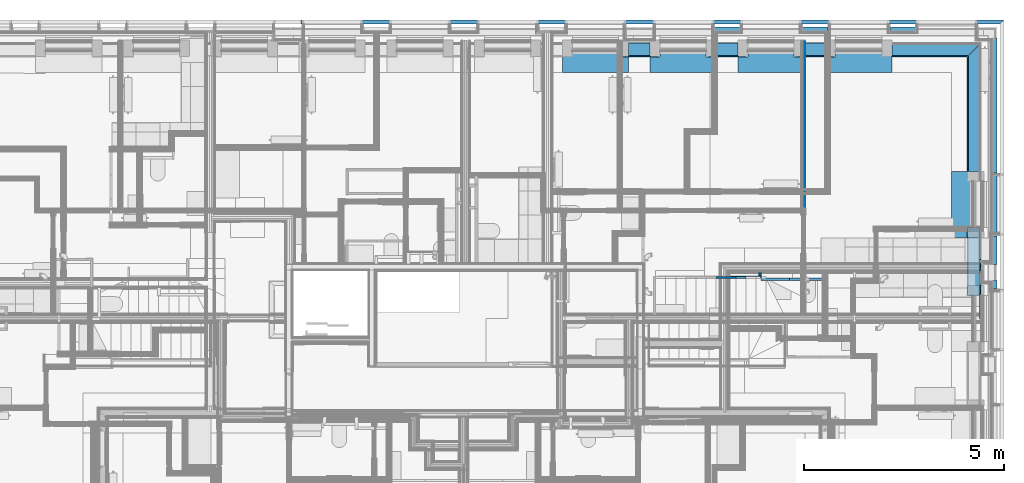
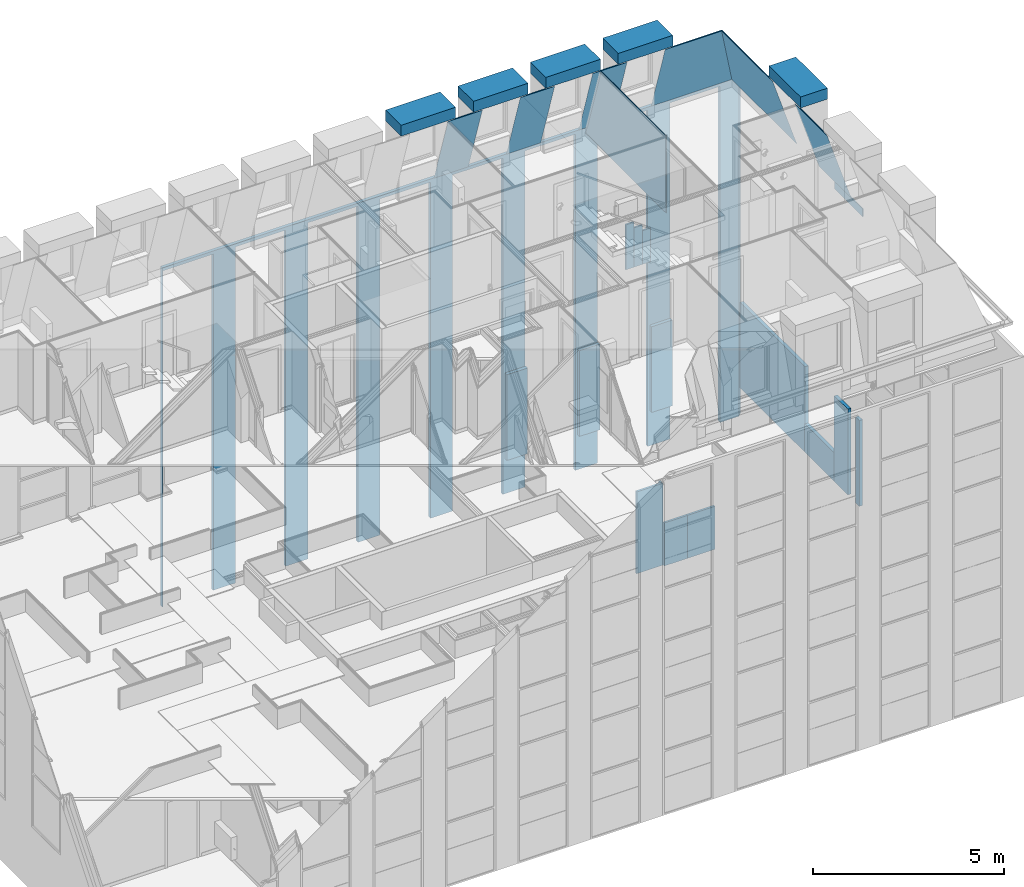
# One storey, part 8 of 169: 34 walls, 8 openings.
"""IFC2X3 building model written with IfcOpenShell, lengths in metres."""

from ifc_helpers import new_model, entity, si_unit, converted_unit, derived_unit, money_unit, direction, frame, frame_2d, origin_with_axes, place, context, subcontext, project, spatial, polyline, rectangle, outline, extrude, clip, halfspace, material, layer, layer_set, layer_usage, type_object, element, save


model = new_model("IFC2X3")

# Units and contexts
model_context = context("Model", 3, precision=1e-05, world=origin_with_axes(), true_north=direction((0.0, 1.0)))
body_context = subcontext(model_context, "Body", "Model", "MODEL_VIEW", scale=1.0)
ifc_project = project(units=[si_unit("LENGTHUNIT", "METRE"), si_unit("AREAUNIT", "SQUARE_METRE"), si_unit("VOLUMEUNIT", "CUBIC_METRE"), si_unit("ABSORBEDDOSEUNIT", "GRAY"), si_unit("AMOUNTOFSUBSTANCEUNIT", "MOLE"), si_unit("DOSEEQUIVALENTUNIT", "SIEVERT"), si_unit("ELECTRICCAPACITANCEUNIT", "FARAD"), si_unit("ELECTRICCHARGEUNIT", "COULOMB"), si_unit("ELECTRICCONDUCTANCEUNIT", "SIEMENS"), si_unit("ELECTRICCURRENTUNIT", "AMPERE"), si_unit("ELECTRICRESISTANCEUNIT", "OHM"), si_unit("ELECTRICVOLTAGEUNIT", "VOLT"), si_unit("ENERGYUNIT", "JOULE"), si_unit("FORCEUNIT", "NEWTON"), si_unit("FREQUENCYUNIT", "HERTZ"), si_unit("ILLUMINANCEUNIT", "LUX"), si_unit("INDUCTANCEUNIT", "HENRY"), si_unit("LUMINOUSFLUXUNIT", "LUMEN"), si_unit("LUMINOUSINTENSITYUNIT", "CANDELA"), si_unit("MAGNETICFLUXDENSITYUNIT", "TESLA"), si_unit("MAGNETICFLUXUNIT", "WEBER"), si_unit("MASSUNIT", "GRAM"), converted_unit("PLANEANGLEUNIT", "degree", entity("IfcReal", 0.0174532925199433), si_unit("PLANEANGLEUNIT", "RADIAN"), dimensions=[0, 0, 0, 0, 0, 0, 0]), si_unit("POWERUNIT", "WATT"), si_unit("PRESSUREUNIT", "PASCAL"), si_unit("RADIOACTIVITYUNIT", "BECQUEREL"), si_unit("SOLIDANGLEUNIT", "STERADIAN"), si_unit("THERMODYNAMICTEMPERATUREUNIT", "KELVIN"), si_unit("TIMEUNIT", "SECOND"), derived_unit("ACCELERATIONUNIT", [(si_unit("LENGTHUNIT", "METRE"), 1), (si_unit("TIMEUNIT", "SECOND"), -2)]), derived_unit("ANGULARVELOCITYUNIT", [(converted_unit("PLANEANGLEUNIT", "degree", entity("IfcReal", 0.0174532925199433), si_unit("PLANEANGLEUNIT", "RADIAN"), dimensions=[0, 0, 0, 0, 0, 0, 0]), 1), (si_unit("TIMEUNIT", "SECOND"), -1)]), derived_unit("CURVATUREUNIT", [(converted_unit("PLANEANGLEUNIT", "degree", entity("IfcReal", 0.0174532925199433), si_unit("PLANEANGLEUNIT", "RADIAN"), dimensions=[0, 0, 0, 0, 0, 0, 0]), 1), (si_unit("LENGTHUNIT", "METRE"), -1)]), derived_unit("DYNAMICVISCOSITYUNIT", [(si_unit("PRESSUREUNIT", "PASCAL"), 1), (si_unit("TIMEUNIT", "SECOND"), 1)]), derived_unit("HEATFLUXDENSITYUNIT", [(si_unit("POWERUNIT", "WATT"), 1), (si_unit("LENGTHUNIT", "METRE"), -2)]), derived_unit("HEATINGVALUEUNIT", [(si_unit("ENERGYUNIT", "JOULE"), 1), (si_unit("MASSUNIT", "GRAM"), -1)]), derived_unit("INTEGERCOUNTRATEUNIT", [(si_unit("TIMEUNIT", "SECOND"), -1)]), derived_unit("IONCONCENTRATIONUNIT", [(si_unit("MASSUNIT", "GRAM"), 1), (si_unit("VOLUMEUNIT", "CUBIC_METRE"), -1)]), derived_unit("ISOTHERMALMOISTURECAPACITYUNIT", [(si_unit("VOLUMEUNIT", "CUBIC_METRE"), 1), (si_unit("MASSUNIT", "GRAM"), -1)]), derived_unit("KINEMATICVISCOSITYUNIT", [(si_unit("AREAUNIT", "SQUARE_METRE"), 1), (si_unit("TIMEUNIT", "SECOND"), -1)]), derived_unit("LINEARFORCEUNIT", [(si_unit("FORCEUNIT", "NEWTON"), 1), (si_unit("LENGTHUNIT", "METRE"), -1)]), derived_unit("LINEARMOMENTUNIT", [(si_unit("FORCEUNIT", "NEWTON"), 1), (si_unit("LENGTHUNIT", "METRE"), -1)]), derived_unit("LINEARSTIFFNESSUNIT", [(si_unit("FORCEUNIT", "NEWTON"), 1), (si_unit("LENGTHUNIT", "METRE"), -1)]), derived_unit("LINEARVELOCITYUNIT", [(si_unit("LENGTHUNIT", "METRE"), 1), (si_unit("TIMEUNIT", "SECOND"), -1)]), derived_unit("LUMINOUSINTENSITYDISTRIBUTIONUNIT", [(si_unit("LUMINOUSINTENSITYUNIT", "CANDELA"), 1), (si_unit("LUMINOUSFLUXUNIT", "LUMEN"), -1)]), derived_unit("MASSDENSITYUNIT", [(si_unit("MASSUNIT", "GRAM"), 1), (si_unit("VOLUMEUNIT", "CUBIC_METRE"), -1)]), derived_unit("MASSFLOWRATEUNIT", [(si_unit("MASSUNIT", "GRAM"), 1), (si_unit("TIMEUNIT", "SECOND"), -1)]), derived_unit("MASSPERLENGTHUNIT", [(si_unit("MASSUNIT", "GRAM"), 1), (si_unit("LENGTHUNIT", "METRE"), -1)]), derived_unit("MODULUSOFELASTICITYUNIT", [(si_unit("FORCEUNIT", "NEWTON"), 1), (si_unit("AREAUNIT", "SQUARE_METRE"), -1)]), derived_unit("MODULUSOFLINEARSUBGRADEREACTIONUNIT", [(si_unit("FORCEUNIT", "NEWTON"), 1), (si_unit("LENGTHUNIT", "METRE"), -2)]), derived_unit("MODULUSOFROTATIONALSUBGRADEREACTIONUNIT", [(si_unit("FORCEUNIT", "NEWTON"), 1), (si_unit("LENGTHUNIT", "METRE"), 1)]), derived_unit("MODULUSOFSUBGRADEREACTIONUNIT", [(si_unit("FORCEUNIT", "NEWTON"), 1), (si_unit("VOLUMEUNIT", "CUBIC_METRE"), -1)]), derived_unit("MOISTUREDIFFUSIVITYUNIT", [(si_unit("VOLUMEUNIT", "CUBIC_METRE"), 1), (si_unit("TIMEUNIT", "SECOND"), -1)]), derived_unit("MOLECULARWEIGHTUNIT", [(si_unit("MASSUNIT", "GRAM"), 1), (si_unit("AMOUNTOFSUBSTANCEUNIT", "MOLE"), -1)]), derived_unit("PLANARFORCEUNIT", [(si_unit("FORCEUNIT", "NEWTON"), 1), (si_unit("LENGTHUNIT", "METRE"), -2)]), derived_unit("ROTATIONALFREQUENCYUNIT", [(si_unit("TIMEUNIT", "SECOND"), -1)]), derived_unit("ROTATIONALMASSUNIT", [(si_unit("MASSUNIT", "GRAM"), 1), (si_unit("LENGTHUNIT", "METRE"), 2)]), derived_unit("ROTATIONALSTIFFNESSUNIT", [(si_unit("FORCEUNIT", "NEWTON"), 1), (si_unit("LENGTHUNIT", "METRE"), 1), (converted_unit("PLANEANGLEUNIT", "degree", entity("IfcReal", 0.0174532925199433), si_unit("PLANEANGLEUNIT", "RADIAN"), dimensions=[0, 0, 0, 0, 0, 0, 0]), -1)]), derived_unit("SECTIONAREAINTEGRALUNIT", [(si_unit("LENGTHUNIT", "METRE"), 5)]), derived_unit("SECTIONMODULUSUNIT", [(si_unit("LENGTHUNIT", "METRE"), 3)]), derived_unit("SHEARMODULUSUNIT", [(si_unit("FORCEUNIT", "NEWTON"), 1), (si_unit("AREAUNIT", "SQUARE_METRE"), -1)]), derived_unit("SOUNDPOWERUNIT", [(si_unit("ENERGYUNIT", "JOULE"), 1), (si_unit("TIMEUNIT", "SECOND"), -1)]), derived_unit("SPECIFICHEATCAPACITYUNIT", [(si_unit("FORCEUNIT", "NEWTON"), 1), (si_unit("MASSUNIT", "GRAM"), -1), (si_unit("THERMODYNAMICTEMPERATUREUNIT", "KELVIN"), -1)]), derived_unit("TEMPERATUREGRADIENTUNIT", [(si_unit("THERMODYNAMICTEMPERATUREUNIT", "KELVIN"), 1), (si_unit("LENGTHUNIT", "METRE"), -1)]), derived_unit("THERMALADMITTANCEUNIT", [(si_unit("POWERUNIT", "WATT"), 1), (si_unit("AREAUNIT", "SQUARE_METRE"), -1), (si_unit("THERMODYNAMICTEMPERATUREUNIT", "KELVIN"), -1)]), derived_unit("THERMALCONDUCTANCEUNIT", [(si_unit("POWERUNIT", "WATT"), 1), (si_unit("LENGTHUNIT", "METRE"), -1), (si_unit("THERMODYNAMICTEMPERATUREUNIT", "KELVIN"), -1)]), derived_unit("THERMALEXPANSIONCOEFFICIENTUNIT", [(si_unit("THERMODYNAMICTEMPERATUREUNIT", "KELVIN"), -1)]), derived_unit("THERMALRESISTANCEUNIT", [(si_unit("AREAUNIT", "SQUARE_METRE"), 1), (si_unit("POWERUNIT", "WATT"), -1)]), derived_unit("THERMALTRANSMITTANCEUNIT", [(si_unit("POWERUNIT", "WATT"), 1), (si_unit("AREAUNIT", "SQUARE_METRE"), -1), (si_unit("THERMODYNAMICTEMPERATUREUNIT", "KELVIN"), -1)]), derived_unit("TORQUEUNIT", [(si_unit("FORCEUNIT", "NEWTON"), 1), (si_unit("LENGTHUNIT", "METRE"), 1)]), derived_unit("VAPORPERMEABILITYUNIT", [(si_unit("MASSUNIT", "GRAM"), 1), (si_unit("TIMEUNIT", "SECOND"), -1)]), derived_unit("VOLUMETRICFLOWRATEUNIT", [(si_unit("VOLUMEUNIT", "CUBIC_METRE"), 1), (si_unit("TIMEUNIT", "SECOND"), -1)]), derived_unit("WARPINGCONSTANTUNIT", [(si_unit("LENGTHUNIT", "METRE"), 6)]), derived_unit("WARPINGMOMENTUNIT", [(si_unit("FORCEUNIT", "NEWTON"), 1), (si_unit("LENGTHUNIT", "METRE"), 2)]), money_unit("GBP")], contexts=[model_context])

# Site, building, storey
site_placement = place(None, origin_with_axes())
site = spatial("IfcSite", under=ifc_project, at=site_placement, Name="Site", CompositionType="ELEMENT")
building_placement = place(site_placement, origin_with_axes())
building = spatial("IfcBuilding", under=site, at=building_placement, Name="Building01", CompositionType="ELEMENT")
storey_placement = place(building_placement, frame((0.0, 0.0, 5.15), z_axis=(0.0, 0.0, 1.0), x_axis=(1.0, 0.0, 0.0)))
storey = spatial("IfcBuildingStorey", under=building, at=storey_placement, Name="1F", CompositionType="ELEMENT", Elevation=5.15)

# Wall, openings
ifc_material_1 = material(Name="A_BSUK_WallsExternal_Brick")
ifc_layer_1 = layer(ifc_material_1, 0.1, ventilated=False)
ifc_layer_set_1 = layer_set([ifc_layer_1])
ifc_layer_usage_1 = layer_usage(ifc_layer_set_1, "AXIS2", "POSITIVE", 0.0)
wall_type_1 = type_object("IfcWallType", Name="A-Walls-ExternalBrick", PredefinedType="NOTDEFINED")
wall_1_placement = place(storey_placement, frame((9.443277, 14.9, -1.18), z_axis=(0.0, 0.0, 1.0), x_axis=(1.0, 0.0, 0.0)))
wall_1 = element("IfcWallStandardCase", 1, at=wall_1_placement, inside=storey, type_object=wall_type_1, material=ifc_layer_usage_1, Name="A-Walls-ExternalBrick", ObjectType="A-Walls-ExternalBrick", context=body_context, shape_type="SweptSolid", body=[
    extrude(outline(polyline([(17.536723, 0.0), (0.0, 0.0), (0.0, -0.1), (17.436723, -0.1), (17.536723, 0.0)])), origin_with_axes(), (0.0, 0.0, 1.0), 10.850238),
])
opening_1_placement = place(wall_1_placement, frame((13.156723, -0.1, 0.0), z_axis=(0.0, 0.0, 1.0), x_axis=(1.0, 0.0, 0.0)))
element("IfcOpeningElement", 2, at=opening_1_placement, cuts=wall_1, Name="Opening", ObjectType="Opening", context=body_context, shape_type="SweptSolid", body=[
    extrude(rectangle(XDim=1.52, YDim=10.75, at=frame_2d((-0.76, 5.375), x_axis=(-1.0, 0.0))), frame((0.0, 0.0, 0.0), z_axis=(0.0, 1.0, 0.0), x_axis=(-1.0, 0.0, 0.0)), (0.0, 0.0, 1.0), 0.1),
])
opening_2_placement = place(wall_1_placement, frame((10.966723, -0.1, 0.0), z_axis=(0.0, 0.0, 1.0), x_axis=(1.0, 0.0, 0.0)))
element("IfcOpeningElement", 3, at=opening_2_placement, cuts=wall_1, Name="Opening", ObjectType="Opening", context=body_context, shape_type="SweptSolid", body=[
    extrude(rectangle(XDim=1.52, YDim=10.75, at=frame_2d((-0.76, 5.375), x_axis=(-1.0, 0.0))), frame((0.0, 0.0, 0.0), z_axis=(0.0, 1.0, 0.0), x_axis=(-1.0, 0.0, 0.0)), (0.0, 0.0, 1.0), 0.1),
])
opening_3_placement = place(wall_1_placement, frame((8.776723, -0.1, 0.0), z_axis=(0.0, 0.0, 1.0), x_axis=(1.0, 0.0, 0.0)))
element("IfcOpeningElement", 4, at=opening_3_placement, cuts=wall_1, Name="Opening", ObjectType="Opening", context=body_context, shape_type="SweptSolid", body=[
    extrude(rectangle(XDim=1.52, YDim=10.75, at=frame_2d((-0.76, 5.375), x_axis=(-1.0, 0.0))), frame((0.0, 0.0, 0.0), z_axis=(0.0, 1.0, 0.0), x_axis=(-1.0, 0.0, 0.0)), (0.0, 0.0, 1.0), 0.1),
])
opening_4_placement = place(wall_1_placement, frame((6.586723, -0.1, 0.0), z_axis=(0.0, 0.0, 1.0), x_axis=(1.0, 0.0, 0.0)))
element("IfcOpeningElement", 5, at=opening_4_placement, cuts=wall_1, Name="Opening", ObjectType="Opening", context=body_context, shape_type="SweptSolid", body=[
    extrude(rectangle(XDim=1.52, YDim=10.75, at=frame_2d((-0.76, 5.375), x_axis=(-1.0, 0.0))), frame((0.0, 0.0, 0.0), z_axis=(0.0, 1.0, 0.0), x_axis=(-1.0, 0.0, 0.0)), (0.0, 0.0, 1.0), 0.1),
])
opening_5_placement = place(wall_1_placement, frame((4.396723, -0.1, 0.0), z_axis=(0.0, 0.0, 1.0), x_axis=(1.0, 0.0, 0.0)))
element("IfcOpeningElement", 6, at=opening_5_placement, cuts=wall_1, Name="Opening", ObjectType="Opening", context=body_context, shape_type="SweptSolid", body=[
    extrude(rectangle(XDim=1.52, YDim=10.75, at=frame_2d((-0.76, 5.375), x_axis=(-1.0, 0.0))), frame((0.0, 0.0, 0.0), z_axis=(0.0, 1.0, 0.0), x_axis=(-1.0, 0.0, 0.0)), (0.0, 0.0, 1.0), 0.1),
])
opening_6_placement = place(wall_1_placement, frame((2.206723, -0.1, 0.0), z_axis=(0.0, 0.0, 1.0), x_axis=(1.0, 0.0, 0.0)))
element("IfcOpeningElement", 7, at=opening_6_placement, cuts=wall_1, Name="Opening", ObjectType="Opening", context=body_context, shape_type="SweptSolid", body=[
    extrude(rectangle(XDim=1.52, YDim=10.75, at=frame_2d((-0.76, 5.375), x_axis=(-1.0, 0.0))), frame((0.0, 0.0, 0.0), z_axis=(0.0, 1.0, 0.0), x_axis=(-1.0, 0.0, 0.0)), (0.0, 0.0, 1.0), 0.1),
])
opening_7_placement = place(wall_1_placement, frame((0.016723, -0.1, 0.0), z_axis=(0.0, 0.0, 1.0), x_axis=(1.0, 0.0, 0.0)))
element("IfcOpeningElement", 8, at=opening_7_placement, cuts=wall_1, Name="Opening", ObjectType="Opening", context=body_context, shape_type="SweptSolid", body=[
    extrude(rectangle(XDim=1.52, YDim=10.75, at=frame_2d((-0.76, 5.375), x_axis=(-1.0, 0.0))), frame((0.0, 0.0, 0.0), z_axis=(0.0, 1.0, 0.0), x_axis=(-1.0, 0.0, 0.0)), (0.0, 0.0, 1.0), 0.1),
])
opening_8_placement = place(wall_1_placement, frame((15.346723, -0.1, 0.0), z_axis=(0.0, 0.0, 1.0), x_axis=(1.0, 0.0, 0.0)))
element("IfcOpeningElement", 9, at=opening_8_placement, cuts=wall_1, Name="Opening", ObjectType="Opening", context=body_context, shape_type="SweptSolid", body=[
    extrude(rectangle(XDim=1.52, YDim=10.75, at=frame_2d((-0.76, 5.375), x_axis=(-1.0, 0.0))), frame((0.0, 0.0, 0.0), z_axis=(0.0, 1.0, 0.0), x_axis=(-1.0, 0.0, 0.0)), (0.0, 0.0, 1.0), 0.1),
])

# Walls
ifc_material_2 = material(Name="A_BSUK_WallsExternal_Block")
ifc_layer_2 = layer(ifc_material_2, 0.1, ventilated=False)
ifc_layer_set_2 = layer_set([ifc_layer_2])
ifc_layer_usage_2 = layer_usage(ifc_layer_set_2, "AXIS2", "POSITIVE", 0.0)
wall_type_2 = type_object("IfcWallType", Name="A-Walls-ExternalBlock", PredefinedType="NOTDEFINED")
for number, where, z_axis, x_axis, name in (
    (10, (19.763, 14.63, 0.0), (0.0, 0.0, 1.0), (1.0, 0.0, 0.0), "A-Walls-ExternalBlock"),
    (11, (21.953, 14.63, 0.0), (0.0, 0.0, 1.0), (1.0, 0.0, 0.0), "A-Walls-ExternalBlock"),
    (12, (24.143, 14.63, 0.0), (0.0, 0.0, 1.0), (1.0, 0.0, 0.0), "A-Walls-ExternalBlock"),
):
    element("IfcWallStandardCase", number, at=place(storey_placement, frame(where, z_axis=z_axis, x_axis=x_axis)), inside=storey, type_object=wall_type_2, material=ifc_layer_usage_2, Name=name, ObjectType="A-Walls-ExternalBlock", context=body_context, shape_type="SweptSolid", body=[
        extrude(rectangle(XDim=0.624, YDim=0.1, at=frame_2d((0.312, 0.05), x_axis=(-1.0, 0.0))), origin_with_axes(), (0.0, 0.0, 1.0), 2.74),
    ])
wall_2_placement = place(storey_placement, frame((26.71, 9.51418, 0.0), z_axis=(0.0, 0.0, 1.0), x_axis=(0.0, -1.0, 0.0)))
element("IfcWallStandardCase", 13, at=wall_2_placement, inside=storey, type_object=wall_type_2, material=ifc_layer_usage_2, Name="A-Walls-ExternalBlock", ObjectType="A-Walls-ExternalBlock", context=body_context, shape_type="SweptSolid", body=[
    extrude(rectangle(XDim=0.1, YDim=0.71418, at=frame_2d((0.35709, 0.05), x_axis=(0.0, -1.0))), origin_with_axes(), (0.0, 0.0, 1.0), 2.74),
])
wall_3_placement = place(storey_placement, frame((26.71, 8.4, 0.0), z_axis=(0.0, 0.0, 1.0), x_axis=(0.0, -1.0, 0.0)))
element("IfcWallStandardCase", 14, at=wall_3_placement, inside=storey, type_object=wall_type_2, material=ifc_layer_usage_2, Name="A-Walls-ExternalBlock", ObjectType="A-Walls-ExternalBlock", context=body_context, shape_type="SweptSolid", body=[
    extrude(rectangle(XDim=0.199674, YDim=0.1, at=frame_2d((0.099837, 0.05), x_axis=(-1.0, 0.0))), origin_with_axes(), (0.0, 0.0, 1.0), 2.74),
])
wall_4_placement = place(storey_placement, frame((26.71, 14.45, 0.0), z_axis=(0.0, 0.0, 1.0), x_axis=(0.0, -1.0, 0.0)))
element("IfcWallStandardCase", 15, at=wall_4_placement, inside=storey, type_object=wall_type_2, material=ifc_layer_usage_2, Name="A-Walls-ExternalBlock", ObjectType="A-Walls-ExternalBlock", context=body_context, shape_type="SweptSolid", body=[
    extrude(rectangle(XDim=3.40582, YDim=0.1, at=frame_2d((1.70291, 0.05), x_axis=(-1.0, 0.0))), origin_with_axes(), (0.0, 0.0, 1.0), 2.74),
])
wall_5_placement = place(storey_placement, frame((26.71, 11.08018, 0.0), z_axis=(0.0, 0.0, 1.0), x_axis=(0.0, -1.0, 0.0)))
element("IfcWallStandardCase", 16, at=wall_5_placement, inside=storey, type_object=wall_type_2, material=ifc_layer_usage_2, Name="A-Walls-ExternalBlock", ObjectType="A-Walls-ExternalBlock", context=body_context, shape_type="SweptSolid", body=[
    extrude(rectangle(XDim=1.566, YDim=0.1, at=frame_2d((0.783, 0.05), x_axis=(1.0, 0.0))), origin_with_axes(), (0.0, 0.0, 1.0), 0.915),
])
ifc_material_3 = material(Name="A_BSUK_WallsInternal")
ifc_layer_3 = layer(ifc_material_3, 0.025, ventilated=False)
ifc_layer_set_3 = layer_set([ifc_layer_3])
ifc_layer_usage_3 = layer_usage(ifc_layer_set_3, "AXIS2", "POSITIVE", 0.0)
wall_type_3 = type_object("IfcWallType", Name="A-Walls-Internal", PredefinedType="NOTDEFINED")
wall_6_placement = place(storey_placement, frame((26.4012, 7.45, 9.83), z_axis=(0.0, 0.0, 1.0), x_axis=(0.0, 1.0, 0.0)))
element("IfcWallStandardCase", 17, at=wall_6_placement, inside=storey, type_object=wall_type_3, material=ifc_layer_usage_3, Name="7C", ObjectType="A-Walls-Internal", context=body_context, shape_type="SweptSolid", body=[
    extrude(rectangle(XDim=1.482559, YDim=0.025, at=frame_2d((0.741279, 0.0125), x_axis=(-1.0, 0.0))), origin_with_axes(), (0.0, 0.0, 1.0), 0.25),
])
ifc_layer_4 = layer(ifc_material_3, 0.05, ventilated=False)
ifc_layer_set_4 = layer_set([ifc_layer_4])
ifc_layer_usage_4 = layer_usage(ifc_layer_set_4, "AXIS2", "POSITIVE", 0.0)
wall_7_placement = place(storey_placement, frame((19.789976, 8.449915, 9.83), z_axis=(0.0, 0.0, 1.0), x_axis=(1.0, 0.0, 0.0)))
element("IfcWallStandardCase", 18, at=wall_7_placement, inside=storey, type_object=wall_type_3, material=ifc_layer_usage_4, Name="A-Walls-Internal", ObjectType="A-Walls-Internal", context=body_context, shape_type="SweptSolid", body=[
    extrude(rectangle(XDim=0.25, YDim=0.05, at=frame_2d((0.125, 0.025), x_axis=(1.0, 0.0))), origin_with_axes(), (0.0, 0.0, 1.0), 1.44),
])
wall_8_placement = place(storey_placement, frame((20.039976, 8.449915, 9.83), z_axis=(0.0, 0.0, 1.0), x_axis=(1.0, 0.0, 0.0)))
element("IfcWallStandardCase", 19, at=wall_8_placement, inside=storey, type_object=wall_type_3, material=ifc_layer_usage_4, Name="A-Walls-Internal", ObjectType="A-Walls-Internal", context=body_context, shape_type="SweptSolid", body=[
    extrude(rectangle(XDim=0.25, YDim=0.05, at=frame_2d((0.125, 0.025), x_axis=(1.0, 0.0))), origin_with_axes(), (0.0, 0.0, 1.0), 1.26),
])
wall_9_placement = place(storey_placement, frame((20.289976, 8.449915, 9.83), z_axis=(0.0, 0.0, 1.0), x_axis=(1.0, 0.0, 0.0)))
element("IfcWallStandardCase", 20, at=wall_9_placement, inside=storey, type_object=wall_type_3, material=ifc_layer_usage_4, Name="A-Walls-Internal", ObjectType="A-Walls-Internal", context=body_context, shape_type="SweptSolid", body=[
    extrude(rectangle(XDim=0.25, YDim=0.05, at=frame_2d((0.125, 0.025), x_axis=(1.0, 0.0))), origin_with_axes(), (0.0, 0.0, 1.0), 1.08),
])
ifc_material_4 = material(Name="A_BSUK_OpeningsClearance")
ifc_layer_5 = layer(ifc_material_4, 0.05, ventilated=False)
ifc_material_5 = material(Name="A_BSUK_Walls_Timber")
ifc_layer_6 = layer(ifc_material_5, 0.015, ventilated=False)
ifc_layer_set_5 = layer_set([ifc_layer_5, ifc_layer_6])
ifc_layer_usage_5 = layer_usage(ifc_layer_set_5, "AXIS2", "POSITIVE", 0.0)
wall_type_4 = type_object("IfcWallType", Name="SHE_A-Walls_Type05c_PreWallShell_65mm", PredefinedType="NOTDEFINED")
wall_10_placement = place(storey_placement, frame((20.907661, 8.515, 0.0), z_axis=(0.0, 0.0, 1.0), x_axis=(-1.0, 0.0, 0.0)))
element("IfcWallStandardCase", 21, at=wall_10_placement, inside=storey, type_object=wall_type_4, material=ifc_layer_usage_5, Name="5C", ObjectType="SHE_A-Walls_Type05c_PreWallShell_65mm", context=body_context, shape_type="SweptSolid", body=[
    extrude(outline(polyline([(0.785, 0.065), (-0.015, 0.065), (-0.015, 0.05), (0.0, 0.05), (0.0, 0.0), (0.785, 0.0), (0.785, 0.065)])), origin_with_axes(), (0.0, 0.0, 1.0), 2.615),
])
wall_11_placement = place(storey_placement, frame((20.857661, 8.595, 0.0), z_axis=(0.0, 0.0, 1.0), x_axis=(0.0, -1.0, 0.0)))
element("IfcWallStandardCase", 22, at=wall_11_placement, inside=storey, type_object=wall_type_4, material=ifc_layer_usage_5, Name="5C", ObjectType="SHE_A-Walls_Type05c_PreWallShell_65mm", context=body_context, shape_type="SweptSolid", body=[
    extrude(outline(polyline([(0.08, 0.05), (0.13, 0.05), (0.13, 0.065), (0.0, 0.065), (0.0, 0.0), (0.08, 0.0), (0.08, 0.05)])), origin_with_axes(), (0.0, 0.0, 1.0), 2.615),
])
wall_12_placement = place(storey_placement, frame((21.626659, 8.460003, 0.0), z_axis=(0.0, 0.0, 1.0), x_axis=(-1.0, 0.0, 0.0)))
element("IfcWallStandardCase", 23, at=wall_12_placement, inside=storey, type_object=wall_type_4, material=ifc_layer_usage_5, Name="5C", ObjectType="SHE_A-Walls_Type05c_PreWallShell_65mm", context=body_context, shape_type="SweptSolid", body=[
    extrude(rectangle(XDim=0.703998, YDim=0.065, at=frame_2d((0.351999, 0.0325), x_axis=(-1.0, 0.0))), origin_with_axes(), (0.0, 0.0, 1.0), 1.375),
])
wall_13_placement = place(storey_placement, frame((22.461661, 8.46, 0.0), z_axis=(0.0, 0.0, 1.0), x_axis=(-1.0, 0.0, 0.0)))
element("IfcWallStandardCase", 24, at=wall_13_placement, inside=storey, type_object=wall_type_4, material=ifc_layer_usage_5, Name="5C", ObjectType="SHE_A-Walls_Type05c_PreWallShell_65mm", context=body_context, shape_type="SweptSolid", body=[
    extrude(rectangle(XDim=0.835002, YDim=0.065, at=frame_2d((0.417501, 0.0325), x_axis=(1.0, 0.0))), origin_with_axes(), (0.0, 0.0, 1.0), 1.375),
])
ifc_material_6 = material(Name="A_BSUK_WallInternal_Finishes_Plasterboard")
ifc_layer_7 = layer(ifc_material_6, 0.015, ventilated=False)
ifc_layer_set_6 = layer_set([ifc_layer_7])
ifc_layer_usage_6 = layer_usage(ifc_layer_set_6, "AXIS2", "POSITIVE", 0.0)
wall_type_5 = type_object("IfcWallType", Name="default", PredefinedType="NOTDEFINED")
wall_14_placement = place(storey_placement, frame((22.004976, 10.179939, 9.83), z_axis=(0.0, 0.0, 1.0), x_axis=(0.0, 1.0, 0.0)))
element("IfcWallStandardCase", 25, at=wall_14_placement, inside=storey, type_object=wall_type_5, material=ifc_layer_usage_6, Name="default", ObjectType="default", context=body_context, shape_type="Clipping", body=[
    clip(extrude(rectangle(XDim=4.206719, YDim=0.015, at=frame_2d((2.103359, -0.0075), x_axis=(-1.0, 0.0))), origin_with_axes(), (0.0, 0.0, 1.0), 2.468), halfspace(frame((3.805013, 0.0, 1.236324), z_axis=(-0.95105652, 0.0, -0.30901699), x_axis=(0.0, -1.0, 0.0)), True)),
])
ifc_material_7 = material(Name="A_BSUK_Roofs")
wall_type_6 = type_object("IfcWallType", Name="A-Walls-ExternalBlock", PredefinedType="NOTDEFINED")
for number, where, z_axis, x_axis, name in (
    (26, (15.960024, 14.400096, 12.679998), (1.0, 0.0, 0.0), (0.0, -1.0, 0.0), "7C"),
    (27, (18.150024, 14.400096, 12.679999), (1.0, 0.0, 0.0), (0.0, -1.0, 0.0), "7C"),
    (28, (20.340024, 14.400096, 12.679998), (1.0, 0.0, 0.0), (0.0, -1.0, 0.0), "7C"),
    (29, (22.530024, 14.400096, 12.679999), (1.0, 0.0, 0.0), (0.0, -1.0, 0.0), "7C"),
):
    element("IfcWall", number, at=place(storey_placement, frame(where, z_axis=z_axis, x_axis=x_axis)), inside=storey, type_object=wall_type_6, material=ifc_material_7, Name=name, ObjectType="A-Walls-ExternalBlock", context=body_context, shape_type="SweptSolid", body=[
        extrude(rectangle(XDim=0.81, YDim=0.349999, at=frame_2d((0.405, 0.174999), x_axis=(1.0, 0.0))), origin_with_axes(), (0.0, 0.0, 1.0), 1.649951),
    ])
wall_15_placement = place(storey_placement, frame((26.480061, 11.124915, 12.679998), z_axis=(0.0, -1.0, 0.0), x_axis=(-1.0, 0.0, 0.0)))
element("IfcWall", 30, at=wall_15_placement, inside=storey, type_object=wall_type_6, material=ifc_material_7, Name="7C", ObjectType="A-Walls-ExternalBlock", context=body_context, shape_type="SweptSolid", body=[
    extrude(rectangle(XDim=0.81, YDim=0.349999, at=frame_2d((0.405, 0.174999), x_axis=(1.0, 0.0))), origin_with_axes(), (0.0, 0.0, 1.0), 1.65),
])
wall_type_7 = type_object("IfcWallType", Name="A-Walls-Internal", PredefinedType="NOTDEFINED")
for number, where, z_axis, x_axis, name in (
    (31, (17.609976, 14.3212, 10.08), (0.0, -0.30901699, 0.95105652), (1.0, 0.0, 0.0), "7C"),
    (32, (19.799976, 14.3212, 10.08), (0.0, -0.30901699, 0.95105652), (1.0, 0.0, 0.0), "7C"),
    (33, (21.989976, 14.3212, 10.08), (0.0, -0.30901699, 0.95105652), (1.0, 0.0, 0.0), "7C"),
):
    element("IfcWall", number, at=place(storey_placement, frame(where, z_axis=z_axis, x_axis=x_axis)), inside=storey, type_object=wall_type_7, material=ifc_material_3, Name=name, ObjectType="A-Walls-Internal", context=body_context, shape_type="SweptSolid", body=[
        extrude(rectangle(XDim=0.540049, YDim=0.015, at=frame_2d((0.270024, -0.0075), x_axis=(-1.0, 0.0))), origin_with_axes(), (0.0, 0.0, 1.0), 2.373987),
    ])
wall_16_placement = place(storey_placement, frame((26.4012, 11.124915, 10.08), z_axis=(-0.30901699, 0.0, 0.95105652), x_axis=(0.0, 1.0, 0.0)))
element("IfcWall", 34, at=wall_16_placement, inside=storey, type_object=wall_type_7, material=ifc_material_3, Name="7C", ObjectType="A-Walls-Internal", context=body_context, shape_type="Clipping", body=[
    clip(extrude(outline(polyline([(3.182019, 0.015), (0.0, 0.015), (0.0, 0.0), (3.196285, 0.0), (3.182019, 0.015)])), origin_with_axes(), (0.0, 0.0, 1.0), 2.373987), halfspace(frame((1.598142, 1.519924, 0.493853), z_axis=(-0.70710678, -0.67249851, -0.21850801), x_axis=(0.68915176, -0.72461704, 0.0)), True)),
])
wall_17_placement = place(storey_placement, frame((26.4012, 14.3212, 10.08), z_axis=(0.0, -0.30901699, 0.95105652), x_axis=(-1.0, 0.0, 0.0)))
element("IfcWall", 35, at=wall_17_placement, inside=storey, type_object=wall_type_7, material=ifc_material_3, Name="7C", ObjectType="A-Walls-Internal", context=body_context, shape_type="Clipping", body=[
    clip(extrude(outline(polyline([(2.221224, 0.015), (0.014266, 0.015), (0.0, 0.0), (2.221224, 0.0), (2.221224, 0.015)])), origin_with_axes(), (0.0, 0.0, 1.0), 2.373987), halfspace(frame((0.0, 0.0, 0.0), z_axis=(0.70710678, -0.67249851, -0.21850801), x_axis=(0.68915176, 0.72461704, 0.0)), True)),
])
wall_18_placement = place(storey_placement, frame((26.4012, 9.474964, 10.08), z_axis=(-0.30901699, 0.0, 0.95105652), x_axis=(0.0, -1.0, 0.0)))
element("IfcWall", 36, at=wall_18_placement, inside=storey, type_object=wall_type_7, material=ifc_material_3, Name="7C", ObjectType="A-Walls-Internal", context=body_context, shape_type="SweptSolid", body=[
    extrude(rectangle(XDim=1.200049, YDim=0.015, at=frame_2d((0.600024, -0.0075), x_axis=(-1.0, 0.0))), origin_with_axes(), (0.0, 0.0, 1.0), 2.373987),
])
wall_19_placement = place(storey_placement, frame((26.385572, 11.124915, 10.079557), z_axis=(-0.30901699, 0.0, 0.95105652), x_axis=(0.0, 1.0, 0.0)))
element("IfcWall", 37, at=wall_19_placement, inside=storey, type_object=wall_type_7, material=ifc_material_3, Name="7C", ObjectType="A-Walls-Internal", context=body_context, shape_type="Clipping", body=[
    clip(extrude(outline(polyline([(3.166391, 0.015), (-0.25, 0.015), (0.0, 0.0), (3.180657, 0.0), (3.166391, 0.015)])), origin_with_axes(), (0.0, 0.0, 1.0), 2.373987), halfspace(frame((1.590328, 1.512492, 0.491439), z_axis=(-0.70710678, -0.67249851, -0.21850801), x_axis=(0.68915176, -0.72461704, 0.0)), True)),
])
wall_20_placement = place(storey_placement, frame((26.385572, 14.305572, 10.079557), z_axis=(0.0, -0.30901699, 0.95105652), x_axis=(-1.0, 0.0, 0.0)))
element("IfcWall", 38, at=wall_20_placement, inside=storey, type_object=wall_type_7, material=ifc_material_3, Name="7C", ObjectType="A-Walls-Internal", context=body_context, shape_type="Clipping", body=[
    clip(extrude(outline(polyline([(2.455596, 0.015), (0.014266, 0.015), (0.0, 0.0), (2.205596, 0.0), (2.455596, 0.015)])), origin_with_axes(), (0.0, 0.0, 1.0), 2.373987), halfspace(frame((0.0, 0.0, 0.0), z_axis=(0.70710678, -0.67249851, -0.21850801), x_axis=(0.68915176, 0.72461704, 0.0)), True)),
])
for number, where, z_axis, x_axis, name in (
    (39, (17.609976, 14.305572, 10.079557), (0.0, -0.30901699, 0.95105652), (1.0, 0.0, 0.0), "7C"),
    (40, (19.799976, 14.305572, 10.079557), (0.0, -0.30901699, 0.95105652), (1.0, 0.0, 0.0), "7C"),
    (41, (21.989976, 14.305572, 10.079557), (0.0, -0.30901699, 0.95105652), (1.0, 0.0, 0.0), "7C"),
):
    element("IfcWall", number, at=place(storey_placement, frame(where, z_axis=z_axis, x_axis=x_axis)), inside=storey, type_object=wall_type_7, material=ifc_material_3, Name=name, ObjectType="A-Walls-Internal", context=body_context, shape_type="SweptSolid", body=[
        extrude(outline(polyline([(0.540049, 0.0), (0.0, 0.0), (-0.25, -0.015), (0.790049, -0.015), (0.540049, 0.0)])), origin_with_axes(), (0.0, 0.0, 1.0), 2.373987),
    ])
wall_21_placement = place(storey_placement, frame((26.385572, 9.474964, 10.079557), z_axis=(-0.30901699, 0.0, 0.95105652), x_axis=(0.0, -1.0, 0.0)))
element("IfcWall", 42, at=wall_21_placement, inside=storey, type_object=wall_type_7, material=ifc_material_3, Name="7C", ObjectType="A-Walls-Internal", context=body_context, shape_type="SweptSolid", body=[
    extrude(outline(polyline([(1.200049, 0.0), (0.0, 0.0), (-0.25, -0.015), (1.450049, -0.015), (1.200049, 0.0)])), origin_with_axes(), (0.0, 0.0, 1.0), 2.373987),
])

save(model, "model.ifc")
